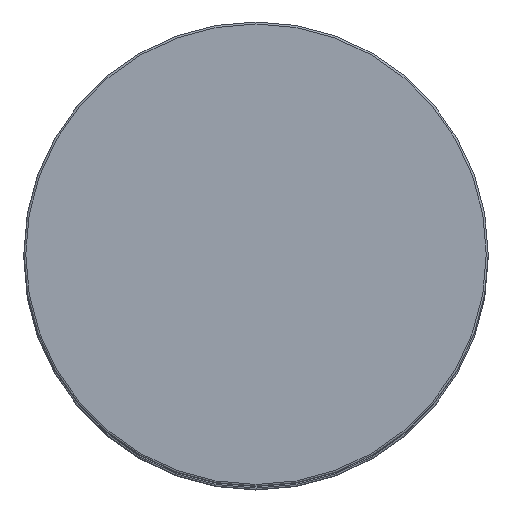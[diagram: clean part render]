
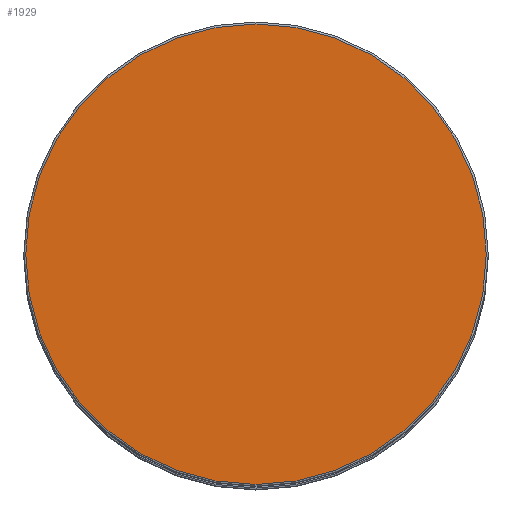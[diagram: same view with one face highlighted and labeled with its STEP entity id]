
A CAD part, top view. The second image highlights one B-rep face of the part: STEP entity #1929.
In plain terms, the highlighted planar face has unit normal (0, 0, 1).
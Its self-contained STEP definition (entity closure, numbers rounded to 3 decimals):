
#78=PLANE('',#2096);
#478=FACE_OUTER_BOUND('',#601,.T.);
#601=EDGE_LOOP('',(#1398));
#755=CIRCLE('',#2095,57.448);
#894=VERTEX_POINT('',#3049);
#1090=EDGE_CURVE('',#894,#894,#755,.T.);
#1398=ORIENTED_EDGE('',*,*,#1090,.F.);
#1929=ADVANCED_FACE('',(#478),#78,.F.);
#2095=AXIS2_PLACEMENT_3D('',#3051,#2404,#2405);
#2096=AXIS2_PLACEMENT_3D('',#3052,#2406,#2407);
#2404=DIRECTION('center_axis',(0.,0.,-1.));
#2405=DIRECTION('ref_axis',(-1.,0.,0.));
#2406=DIRECTION('center_axis',(0.,0.,-1.));
#2407=DIRECTION('ref_axis',(-1.,0.,0.));
#3049=CARTESIAN_POINT('',(57.448,0.,990.));
#3051=CARTESIAN_POINT('Origin',(0.,0.,990.));
#3052=CARTESIAN_POINT('Origin',(0.,0.,990.));
